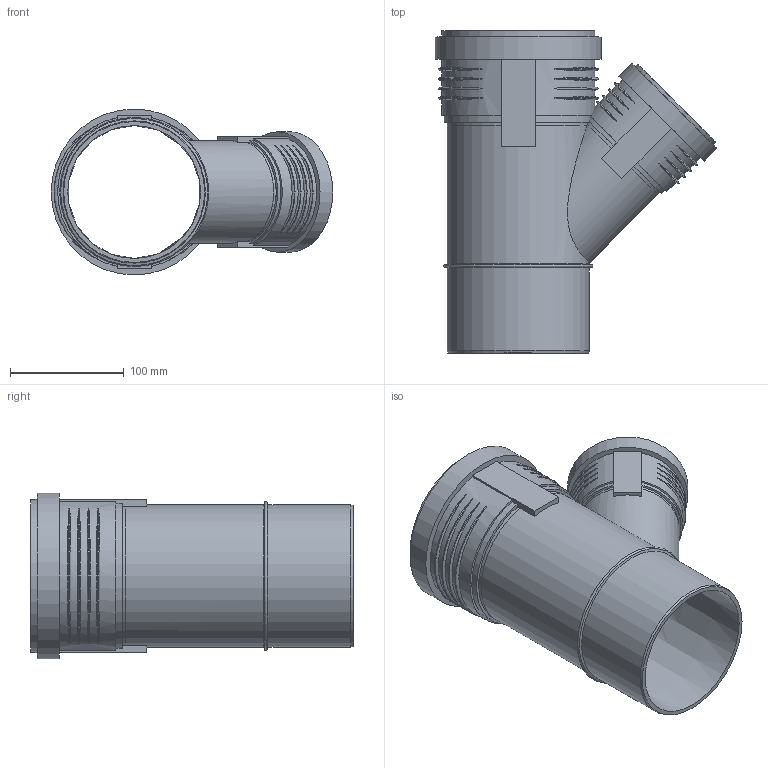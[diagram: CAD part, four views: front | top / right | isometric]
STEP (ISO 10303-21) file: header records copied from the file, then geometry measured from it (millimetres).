
FILE_DESCRIPTION(/* description */ (''),/* implementation_level */ '2;1');
FILE_NAME(/* name */ 'Z:\Geberit\Export\NewStep\390634.stp',/* time_stamp */ '2014-04-02T08:15:55+02:00',/* author */ ('ML'),/* organization */ (''),/* preprocessor_version */ 'ST-DEVELOPER v15.2',/* originating_system */ 'Autodesk Inventor 2014',/* authorisation */ '');
FILE_SCHEMA (('AUTOMOTIVE_DESIGN { 1 0 10303 214 3 1 1 }'));
Length unit declared in the file: millimetre
Products named in the file (4): 861601; 861403; 861625; 390634
Bounding box: 247.56 x 283.4 x 145.9 mm (x, y, z)
Volume: 597356.8 mm3; surface area: 319282.7 mm2
Topology: 3 solids, 3 shells, 125 faces, 305 edges, 212 vertices
Faces by surface type: torus 50, plane 37, cylinder 31, cone 7
Full cylindrical faces by diameter (mm): 84 x1, 84.2 x1, 90.2 x1, 91.2 x2, 97.2 x1, 99.8 x1, 105.8 x1, 117 x1, 125.2 x3, 126.4 x2, 134.6 x1, 137.7 x1, 145.9 x1
Entity records: 5201 total; most frequent: CARTESIAN_POINT 2256, ORIENTED_EDGE 546, DIRECTION 536, EDGE_CURVE 273, AXIS2_PLACEMENT_3D 232, VERTEX_POINT 205, EDGE_LOOP 184, STYLED_ITEM 125
